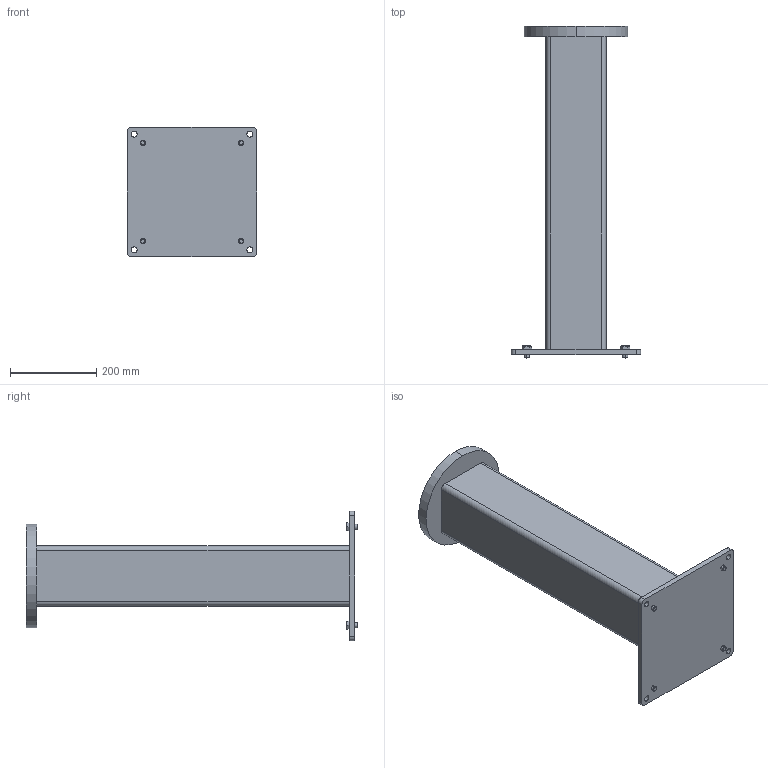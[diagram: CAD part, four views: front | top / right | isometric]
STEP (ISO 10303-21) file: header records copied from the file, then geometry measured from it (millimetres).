
FILE_DESCRIPTION (( 'STEP AP203' ), '1' );
FILE_NAME ('welded stand 36_STEP__9_27_2023.step', '2023-09-27T17:29:07', ( '' ), ( '' ), 'SwSTEP 2.0', 'SolidWorks 2022', '' );
FILE_SCHEMA (( 'CONFIG_CONTROL_DESIGN' ));
Length unit declared in the file: inch
Products named in the file (5): BOTTOM 36_Default<As Machined>; welded stand 36_STEP__9_27_2023; TUBE 36_30 inch<As Machined>; M12_91310A706; TOP 36
Assembly tree (7 placements, depth 2):
  welded stand 36_STEP__9_27_2023
    BOTTOM 36_Default<As Machined>
    TUBE 36_30 inch<As Machined>
    TOP 36
    M12_91310A706  x4
Bounding box: 300 x 769.5 x 300 mm (x, y, z)
Volume: 5222285.7 mm3; surface area: 1071726.6 mm2
Topology: 7 solids, 7 shells, 368 faces, 906 edges, 560 vertices
Faces by surface type: plane 118, bspline 100, cylinder 78, cone 72
Entity records: 7514 total; most frequent: CARTESIAN_POINT 2652, DIRECTION 867, ORIENTED_EDGE 862, EDGE_CURVE 431, AXIS2_PLACEMENT_3D 325, VERTEX_POINT 278, EDGE_LOOP 233, VECTOR 217
